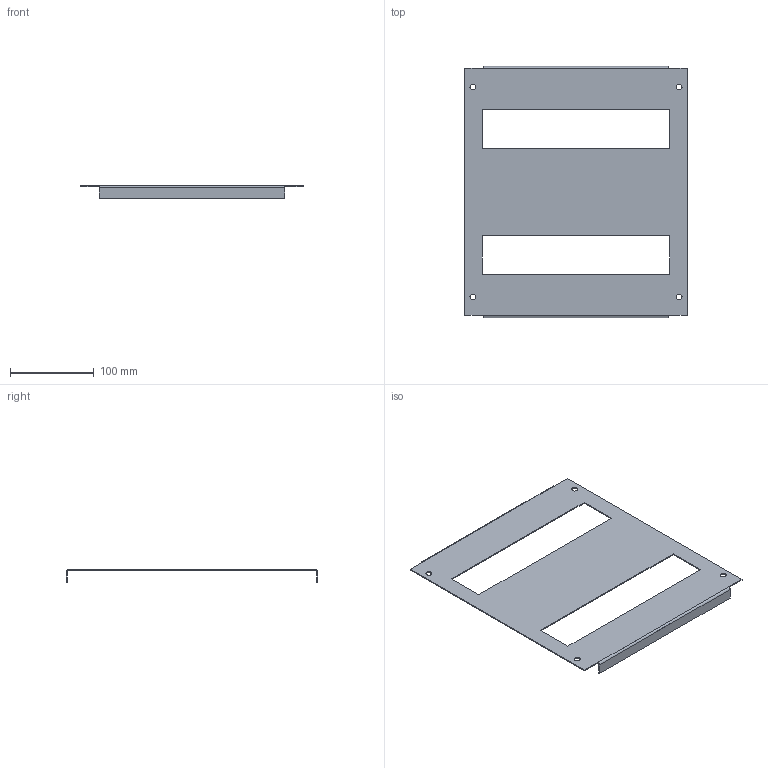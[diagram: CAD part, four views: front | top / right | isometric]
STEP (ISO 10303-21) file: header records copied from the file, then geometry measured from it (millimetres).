
FILE_DESCRIPTION (( 'STEP AP203' ), '1' );
FILE_NAME ('MB 30.30 P Ïàíåëü ìîäóëüíàÿ ñ âûðåçîì.STEP', '2022-05-12T11:38:14', ( '' ), ( '' ), 'SwSTEP 2.0', 'SolidWorks 2018', '' );
FILE_SCHEMA (( 'CONFIG_CONTROL_DESIGN' ));
Length unit declared in the file: millimetre
Products named in the file (1): MB 30.30 P Ïàíåëü ìîäóëüíàÿ ñ âûðåçîì
Bounding box: 265 x 299 x 15 mm (x, y, z)
Volume: 76912.2 mm3; surface area: 130999.8 mm2
Topology: 1 solids, 1 shells, 42 faces, 104 edges, 64 vertices
Faces by surface type: plane 30, cylinder 12
Entity records: 1325 total; most frequent: DIRECTION 214, CARTESIAN_POINT 211, ORIENTED_EDGE 208, EDGE_CURVE 104, VECTOR 80, LINE 80, AXIS2_PLACEMENT_3D 67, VERTEX_POINT 64
